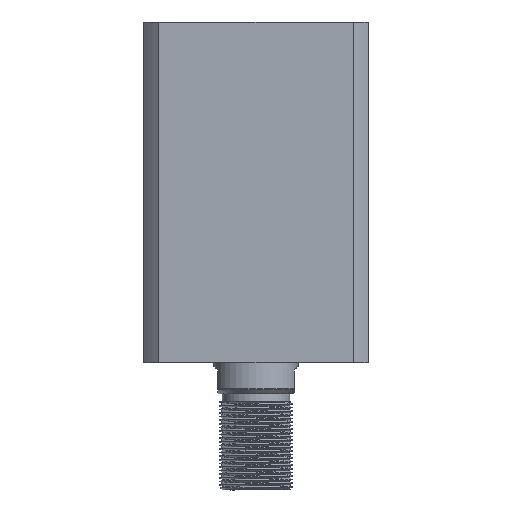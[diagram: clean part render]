
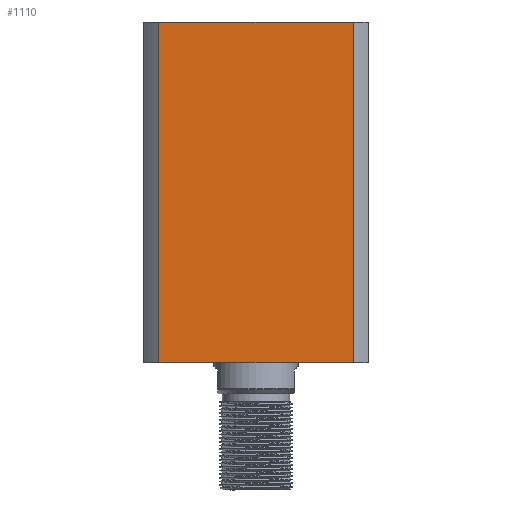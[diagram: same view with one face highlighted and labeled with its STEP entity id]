
A CAD part, front view. The second image highlights one B-rep face of the part: STEP entity #1110.
In plain terms, the highlighted planar face has unit normal (0, -1, 0) as drawn and (0, 1, 0) by its records, which use the part's own axes.
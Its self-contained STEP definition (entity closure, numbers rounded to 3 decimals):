
#347 = ORIENTED_EDGE ( 'NONE', *, *, #19211, .F. ) ;
#639 = EDGE_CURVE ( 'NONE', #13136, #7657, #6002, .T. ) ;
#750 = LINE ( 'NONE', #13017, #5939 ) ;
#1110 = ADVANCED_FACE ( 'NONE', ( #6809 ), #2539, .F. ) ;
#1367 = VECTOR ( 'NONE', #17011, 1000. ) ;
#2518 = DIRECTION ( 'NONE',  ( 0., 0., -1. ) ) ;
#2539 = PLANE ( 'NONE',  #8514 ) ;
#2688 = DIRECTION ( 'NONE',  ( 0., 0., -1. ) ) ;
#2937 = DIRECTION ( 'NONE',  ( 0., 0., 1. ) ) ;
#3845 = DIRECTION ( 'NONE',  ( 0., -1., 0. ) ) ;
#4769 = CARTESIAN_POINT ( 'NONE',  ( -40.435, 47., 0. ) ) ;
#5216 = LINE ( 'NONE', #18584, #18495 ) ;
#5939 = VECTOR ( 'NONE', #2518, 1000. ) ;
#6002 = LINE ( 'NONE', #14815, #1367 ) ;
#6523 = LINE ( 'NONE', #7244, #15782 ) ;
#6544 = VERTEX_POINT ( 'NONE', #4769 ) ;
#6809 = FACE_OUTER_BOUND ( 'NONE', #19637, .T. ) ;
#7244 = CARTESIAN_POINT ( 'NONE',  ( -47., 47., 0. ) ) ;
#7657 = VERTEX_POINT ( 'NONE', #15364 ) ;
#8514 = AXIS2_PLACEMENT_3D ( 'NONE', #13036, #3845, #2688 ) ;
#10072 = CARTESIAN_POINT ( 'NONE',  ( 40.435, 47., 0. ) ) ;
#10218 = ORIENTED_EDGE ( 'NONE', *, *, #22234, .T. ) ;
#13017 = CARTESIAN_POINT ( 'NONE',  ( -40.435, 47., -2858. ) ) ;
#13036 = CARTESIAN_POINT ( 'NONE',  ( -47., 47., 142. ) ) ;
#13136 = VERTEX_POINT ( 'NONE', #19563 ) ;
#13387 = EDGE_CURVE ( 'NONE', #7657, #6544, #750, .T. ) ;
#14753 = VERTEX_POINT ( 'NONE', #10072 ) ;
#14815 = CARTESIAN_POINT ( 'NONE',  ( -47., 47., 142. ) ) ;
#15364 = CARTESIAN_POINT ( 'NONE',  ( -40.435, 47., 142. ) ) ;
#15782 = VECTOR ( 'NONE', #19350, 1000. ) ;
#17011 = DIRECTION ( 'NONE',  ( -1., 0., 0. ) ) ;
#17757 = ORIENTED_EDGE ( 'NONE', *, *, #639, .F. ) ;
#18036 = ORIENTED_EDGE ( 'NONE', *, *, #13387, .F. ) ;
#18495 = VECTOR ( 'NONE', #2937, 1000. ) ;
#18584 = CARTESIAN_POINT ( 'NONE',  ( 40.435, 47., -2858. ) ) ;
#19211 = EDGE_CURVE ( 'NONE', #14753, #13136, #5216, .T. ) ;
#19350 = DIRECTION ( 'NONE',  ( -1., 0., 0. ) ) ;
#19563 = CARTESIAN_POINT ( 'NONE',  ( 40.435, 47., 142. ) ) ;
#19637 = EDGE_LOOP ( 'NONE', ( #347, #10218, #18036, #17757 ) ) ;
#22234 = EDGE_CURVE ( 'NONE', #14753, #6544, #6523, .T. ) ;
